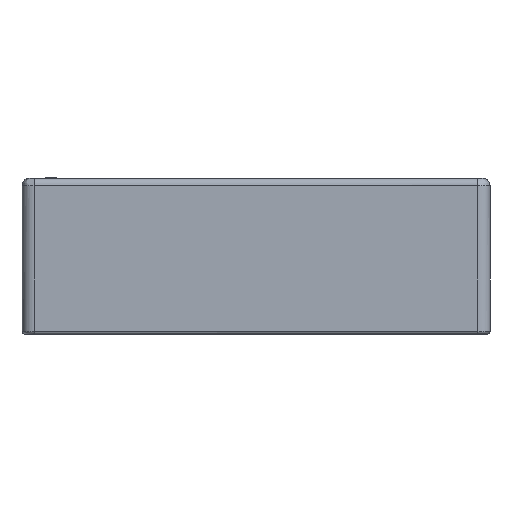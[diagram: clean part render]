
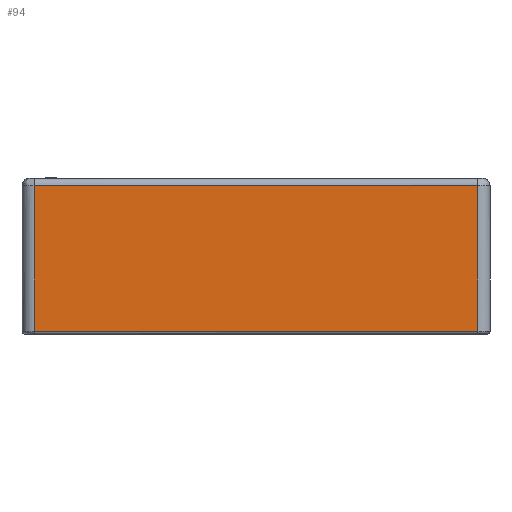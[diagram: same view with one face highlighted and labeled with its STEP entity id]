
A CAD part, left-side view. The second image highlights one B-rep face of the part: STEP entity #94.
In plain terms, the highlighted planar face has unit normal (-1, 0, 0).
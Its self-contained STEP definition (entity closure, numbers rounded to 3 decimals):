
#94=ADVANCED_FACE('',(#253),#2259,.T.);
#253=FACE_OUTER_BOUND('',#417,.T.);
#417=EDGE_LOOP('',(#721,#722,#723,#724));
#721=ORIENTED_EDGE('',*,*,#1331,.T.);
#722=ORIENTED_EDGE('',*,*,#1276,.T.);
#723=ORIENTED_EDGE('',*,*,#1277,.T.);
#724=ORIENTED_EDGE('',*,*,#1330,.F.);
#1276=EDGE_CURVE('',#2003,#2004,#1637,.T.);
#1277=EDGE_CURVE('',#2004,#2044,#1638,.T.);
#1330=EDGE_CURVE('',#2043,#2044,#1651,.T.);
#1331=EDGE_CURVE('',#2043,#2003,#1652,.T.);
#1637=B_SPLINE_CURVE_WITH_KNOTS('',1,(#4326,#4327),.UNSPECIFIED.,.F.,.F.,
(2,2),(0.,284.),.UNSPECIFIED.);
#1638=B_SPLINE_CURVE_WITH_KNOTS('',1,(#4328,#4329),.UNSPECIFIED.,.F.,.F.,
(2,2),(5.,98.),.UNSPECIFIED.);
#1651=B_SPLINE_CURVE_WITH_KNOTS('',1,(#4628,#4629),.UNSPECIFIED.,.F.,.F.,
(2,2),(0.,284.),.UNSPECIFIED.);
#1652=B_SPLINE_CURVE_WITH_KNOTS('',1,(#4630,#4631),.UNSPECIFIED.,.F.,.F.,
(2,2),(2.,95.),.UNSPECIFIED.);
#2003=VERTEX_POINT('',#4191);
#2004=VERTEX_POINT('',#4192);
#2043=VERTEX_POINT('',#4231);
#2044=VERTEX_POINT('',#4232);
#2259=PLANE('',#2474);
#2474=AXIS2_PLACEMENT_3D('',#3452,#2572,$);
#2572=DIRECTION('',(-1.,0.,0.));
#3452=CARTESIAN_POINT('',(8775.557,-297.392,-800.));
#4191=CARTESIAN_POINT('',(8775.557,-289.392,-805.));
#4192=CARTESIAN_POINT('',(8775.557,-5.392,-805.));
#4231=CARTESIAN_POINT('',(8775.557,-289.392,-898.));
#4232=CARTESIAN_POINT('',(8775.557,-5.392,-898.));
#4326=CARTESIAN_POINT('',(8775.557,-289.392,-805.));
#4327=CARTESIAN_POINT('',(8775.557,-5.392,-805.));
#4328=CARTESIAN_POINT('',(8775.557,-5.392,-805.));
#4329=CARTESIAN_POINT('',(8775.557,-5.392,-898.));
#4628=CARTESIAN_POINT('',(8775.557,-289.392,-898.));
#4629=CARTESIAN_POINT('',(8775.557,-5.392,-898.));
#4630=CARTESIAN_POINT('',(8775.557,-289.392,-898.));
#4631=CARTESIAN_POINT('',(8775.557,-289.392,-805.));
